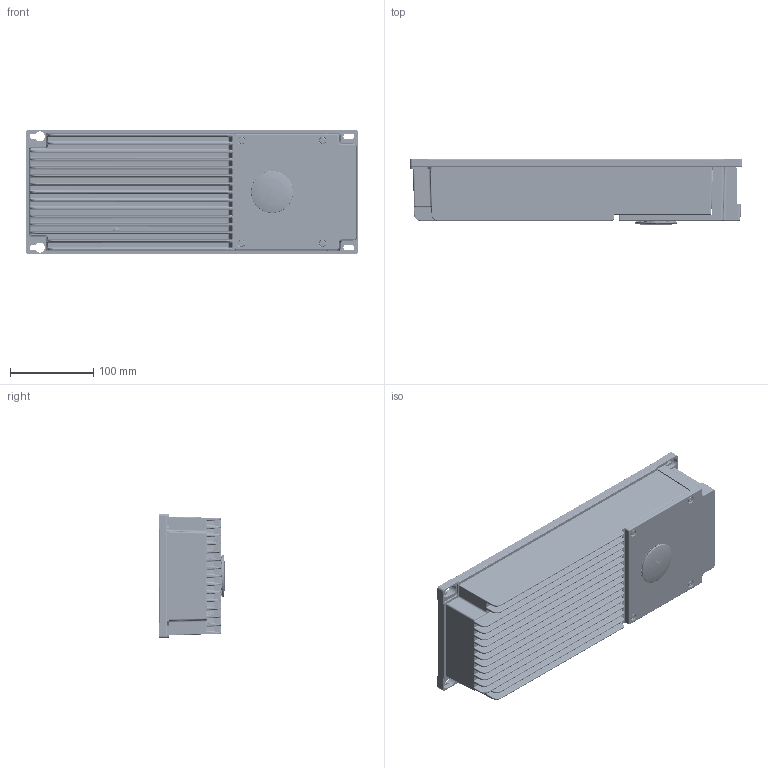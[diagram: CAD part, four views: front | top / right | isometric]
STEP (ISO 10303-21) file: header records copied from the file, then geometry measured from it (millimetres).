
FILE_DESCRIPTION(('Creo Elements/Direct Modeling STEP Export'),'2;1');
FILE_NAME('M109.stp','2025-08-06T14:29:56',(''),(''),'Creo Elements/Direct Modeling STEP processor for AP214 (Solid Model)','Creo Elements/Direct Modeling 20.7 06-Apr-2024 (C) Parametric Technology GmbH','');
FILE_SCHEMA(('AUTOMOTIVE_DESIGN { 1 0 10303 214 1 1 1 1 }'));
Products named in the file (25): casing_top; casing top; casing_bottom; M8 screw; M4X14.PRT.313; casing bottom; cover; seal; NFC antenna; M30 nut; NFC; NFC_seal; M4X17.PRT.2643; terminal cover; GLAND_PG21-01_2_1.PRT; GLAND_PG21-02_2_1.PRT; GLAND_PG21-03_2_1.PRT; GLAND_PG21-04_2_1.PRT; GLAND_PG21-05_2_1.PRT; GLAND_PG21_M25; M16.prt.1; M16.prt.2; M16.prt; cable glands; M109
Assembly tree (36 placements, depth 4):
  M109
    cable glands
      M16.prt  x2
        M16.prt.2
        M16.prt.1
      GLAND_PG21_M25  x2
        GLAND_PG21-05_2_1.PRT
        GLAND_PG21-04_2_1.PRT
        GLAND_PG21-03_2_1.PRT
        GLAND_PG21-02_2_1.PRT
        GLAND_PG21-01_2_1.PRT
    terminal cover
      M4X17.PRT.2643  x4
      NFC_seal
      NFC
        M30 nut
        NFC antenna
      seal
      cover
    casing bottom
      M4X14.PRT.313  x8
      M8 screw
      casing_bottom
    casing top
      casing_top
Bounding box: 400 x 80.5 x 150 mm (x, y, z)
Volume: 871527.3 mm3; surface area: 608776.4 mm2
Topology: 34 solids, 34 shells, 4948 faces, 12762 edges, 8137 vertices
Faces by surface type: plane 1942, cylinder 1892, torus 653, bspline 307, cone 106, sphere 48
Entity records: 141185 total; most frequent: CARTESIAN_POINT 44798, ORIENTED_EDGE 20874, DIRECTION 19234, EDGE_CURVE 10437, AXIS2_PLACEMENT_3D 6920, VERTEX_POINT 6569, VECTOR 5394, LINE 5394
